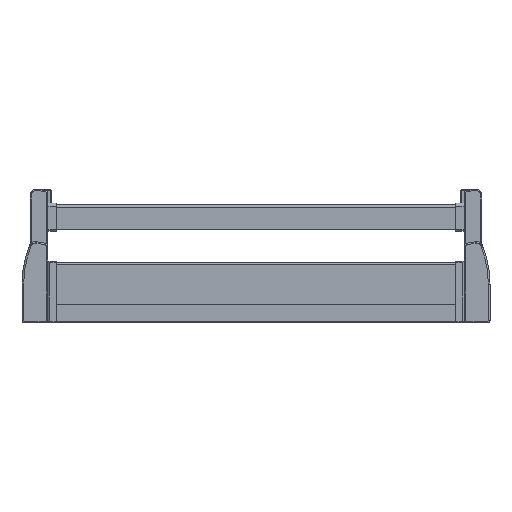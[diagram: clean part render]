
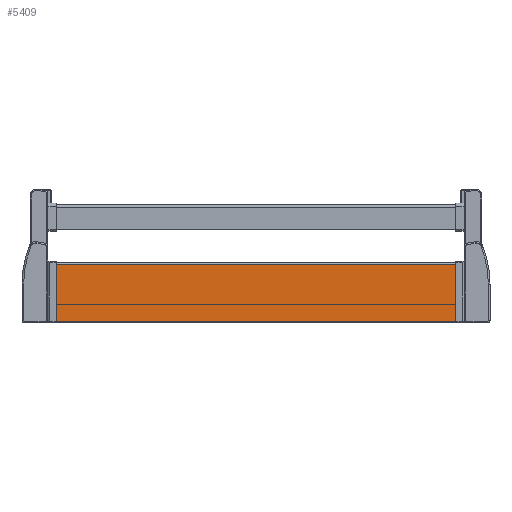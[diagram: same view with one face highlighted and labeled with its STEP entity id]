
A CAD part, top view. The second image highlights one B-rep face of the part: STEP entity #5409.
In plain terms, the highlighted planar face has unit normal (0, 0, 1).
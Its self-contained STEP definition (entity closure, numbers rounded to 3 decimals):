
#280 = PLANE ( 'NONE',  #342 ) ;
#281 = FACE_OUTER_BOUND ( 'NONE', #4655, .T. ) ;
#338 = DIRECTION ( 'NONE',  ( 0., 1., 0. ) ) ;
#339 = DIRECTION ( 'NONE',  ( 0., 0., -1. ) ) ;
#341 = CARTESIAN_POINT ( 'NONE',  ( 312.556, -92.5, 1.4 ) ) ;
#342 = AXIS2_PLACEMENT_3D ( 'NONE', #341, #339, #338 ) ;
#2238 = DIRECTION ( 'NONE',  ( 0., 1., 0. ) ) ;
#2239 = VECTOR ( 'NONE', #2238, 1000. ) ;
#2240 = CARTESIAN_POINT ( 'NONE',  ( 238.8, -92.5, 1.4 ) ) ;
#2241 = LINE ( 'NONE', #2240, #2239 ) ;
#4652 = EDGE_CURVE ( 'NONE', #4972, #4653, #5606, .T. ) ;
#4653 = VERTEX_POINT ( 'NONE', #5599 ) ;
#4655 = EDGE_LOOP ( 'NONE', ( #5410, #4657, #4658, #4661 ) ) ;
#4657 = ORIENTED_EDGE ( 'NONE', *, *, #4971, .T. ) ;
#4658 = ORIENTED_EDGE ( 'NONE', *, *, #4659, .T. ) ;
#4659 = EDGE_CURVE ( 'NONE', #4877, #4660, #5776, .T. ) ;
#4660 = VERTEX_POINT ( 'NONE', #5770 ) ;
#4661 = ORIENTED_EDGE ( 'NONE', *, *, #4662, .F. ) ;
#4662 = EDGE_CURVE ( 'NONE', #4653, #4660, #5766, .T. ) ;
#4877 = VERTEX_POINT ( 'NONE', #6765 ) ;
#4971 = EDGE_CURVE ( 'NONE', #4972, #4877, #2241, .T. ) ;
#4972 = VERTEX_POINT ( 'NONE', #6861 ) ;
#5409 = ADVANCED_FACE ( 'NONE', ( #281 ), #280, .F. ) ;
#5410 = ORIENTED_EDGE ( 'NONE', *, *, #4652, .F. ) ;
#5599 = CARTESIAN_POINT ( 'NONE',  ( -238.8, -92.5, 1.4 ) ) ;
#5601 = DIRECTION ( 'NONE',  ( -1., 0., 0. ) ) ;
#5602 = VECTOR ( 'NONE', #5601, 1000. ) ;
#5604 = CARTESIAN_POINT ( 'NONE',  ( 312.556, -92.5, 1.4 ) ) ;
#5606 = LINE ( 'NONE', #5604, #5602 ) ;
#5761 = DIRECTION ( 'NONE',  ( 0., 1., 0. ) ) ;
#5762 = VECTOR ( 'NONE', #5761, 1000. ) ;
#5764 = CARTESIAN_POINT ( 'NONE',  ( -238.8, -92.5, 1.4 ) ) ;
#5766 = LINE ( 'NONE', #5764, #5762 ) ;
#5770 = CARTESIAN_POINT ( 'NONE',  ( -238.8, -23., 1.4 ) ) ;
#5772 = DIRECTION ( 'NONE',  ( -1., 0., 0. ) ) ;
#5773 = VECTOR ( 'NONE', #5772, 1000. ) ;
#5775 = CARTESIAN_POINT ( 'NONE',  ( 312.556, -23., 1.4 ) ) ;
#5776 = LINE ( 'NONE', #5775, #5773 ) ;
#6765 = CARTESIAN_POINT ( 'NONE',  ( 238.8, -23., 1.4 ) ) ;
#6861 = CARTESIAN_POINT ( 'NONE',  ( 238.8, -92.5, 1.4 ) ) ;
